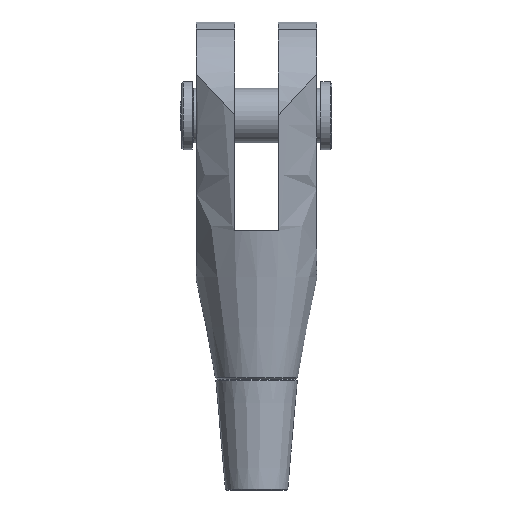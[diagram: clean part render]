
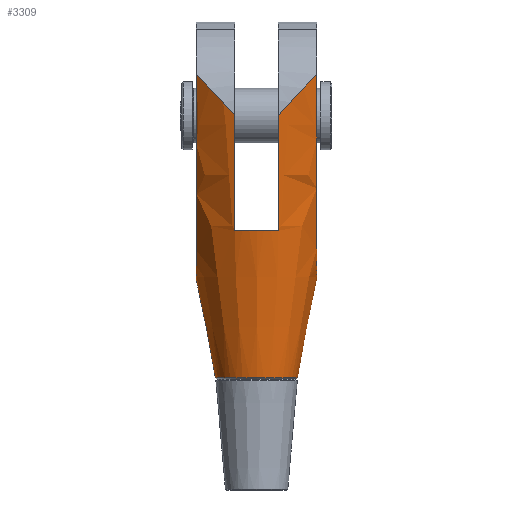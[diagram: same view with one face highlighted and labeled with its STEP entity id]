
A CAD part, front view. The second image highlights one B-rep face of the part: STEP entity #3309.
In plain terms, the highlighted conical face has half-angle 11 degrees and reference radius 49.937 mm.
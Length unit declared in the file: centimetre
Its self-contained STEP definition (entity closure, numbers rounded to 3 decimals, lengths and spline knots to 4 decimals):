
#885=B_SPLINE_CURVE_WITH_KNOTS('',3,(#4488,#4489,#4490,#4491,#4492,#4493,
#4494,#4495,#4496,#4497),.UNSPECIFIED.,.F.,.F.,(4,2,2,2,4),(18.9716,
19.758,21.3497,22.1456,22.8953),
 .UNSPECIFIED.);
#886=B_SPLINE_CURVE_WITH_KNOTS('',3,(#4509,#4510,#4511,#4512,#4513,#4514,
#4515,#4516,#4517,#4518),.UNSPECIFIED.,.F.,.F.,(4,2,2,2,4),(61.0899,
61.8397,62.6355,64.2273,65.0136),
 .UNSPECIFIED.);
#887=B_SPLINE_CURVE_WITH_KNOTS('',3,(#4524,#4525,#4526,#4527,#4528,#4529,
#4530,#4531,#4532,#4533),.UNSPECIFIED.,.F.,.F.,(4,2,2,2,4),(60.9643,
61.7506,63.3424,64.1383,64.888),
 .UNSPECIFIED.);
#888=B_SPLINE_CURVE_WITH_KNOTS('',3,(#4544,#4545,#4546,#4547,#4548,#4549,
#4550,#4551,#4552,#4553),.UNSPECIFIED.,.F.,.F.,(4,2,2,2,4),(19.0973,
19.847,20.6429,22.2346,23.021),
 .UNSPECIFIED.);
#931=(
BOUNDED_CURVE()
B_SPLINE_CURVE(2,(#4484,#4485,#4486),.UNSPECIFIED.,.F.,.F.)
B_SPLINE_CURVE_WITH_KNOTS((3,3),(1.4389,34.7655),
 .UNSPECIFIED.)
CURVE()
GEOMETRIC_REPRESENTATION_ITEM()
RATIONAL_B_SPLINE_CURVE((1.064,1.77,1.064))
REPRESENTATION_ITEM('')
);
#932=(
BOUNDED_CURVE()
B_SPLINE_CURVE(2,(#4499,#4500,#4501),.UNSPECIFIED.,.F.,.F.)
B_SPLINE_CURVE_WITH_KNOTS((3,3),(5.4872,14.0748),
 .UNSPECIFIED.)
CURVE()
GEOMETRIC_REPRESENTATION_ITEM()
RATIONAL_B_SPLINE_CURVE((1.013,1.017,1.))
REPRESENTATION_ITEM('')
);
#933=(
BOUNDED_CURVE()
B_SPLINE_CURVE(2,(#4505,#4506,#4507),.UNSPECIFIED.,.F.,.F.)
B_SPLINE_CURVE_WITH_KNOTS((3,3),(0.,8.5876),.UNSPECIFIED.)
CURVE()
GEOMETRIC_REPRESENTATION_ITEM()
RATIONAL_B_SPLINE_CURVE((1.,1.017,1.013))
REPRESENTATION_ITEM('')
);
#934=(
BOUNDED_CURVE()
B_SPLINE_CURVE(2,(#4520,#4521,#4522),.UNSPECIFIED.,.F.,.F.)
B_SPLINE_CURVE_WITH_KNOTS((3,3),(1.4389,34.7655),
 .UNSPECIFIED.)
CURVE()
GEOMETRIC_REPRESENTATION_ITEM()
RATIONAL_B_SPLINE_CURVE((1.064,1.77,1.064))
REPRESENTATION_ITEM('')
);
#935=(
BOUNDED_CURVE()
B_SPLINE_CURVE(2,(#4535,#4536,#4537),.UNSPECIFIED.,.F.,.F.)
B_SPLINE_CURVE_WITH_KNOTS((3,3),(5.4872,14.0748),
 .UNSPECIFIED.)
CURVE()
GEOMETRIC_REPRESENTATION_ITEM()
RATIONAL_B_SPLINE_CURVE((1.013,1.017,1.))
REPRESENTATION_ITEM('')
);
#936=(
BOUNDED_CURVE()
B_SPLINE_CURVE(2,(#4541,#4542,#4543),.UNSPECIFIED.,.F.,.F.)
B_SPLINE_CURVE_WITH_KNOTS((3,3),(0.,8.5876),.UNSPECIFIED.)
CURVE()
GEOMETRIC_REPRESENTATION_ITEM()
RATIONAL_B_SPLINE_CURVE((1.,1.017,1.013))
REPRESENTATION_ITEM('')
);
#944=FACE_BOUND('',#1176,.T.);
#988=FACE_OUTER_BOUND('',#1175,.T.);
#1175=EDGE_LOOP('',(#2209,#2210,#2211,#2212,#2213,#2214,#2215,#2216,#2217,
#2218,#2219,#2220));
#1176=EDGE_LOOP('',(#2221));
#1404=CIRCLE('',#3500,2.7191);
#1405=CIRCLE('',#3502,4.6049);
#1406=CIRCLE('',#3503,4.6049);
#1448=VERTEX_POINT('',#4479);
#1449=VERTEX_POINT('',#4482);
#1450=VERTEX_POINT('',#4483);
#1451=VERTEX_POINT('',#4487);
#1452=VERTEX_POINT('',#4498);
#1453=VERTEX_POINT('',#4502);
#1454=VERTEX_POINT('',#4504);
#1455=VERTEX_POINT('',#4508);
#1456=VERTEX_POINT('',#4519);
#1457=VERTEX_POINT('',#4523);
#1458=VERTEX_POINT('',#4534);
#1459=VERTEX_POINT('',#4538);
#1460=VERTEX_POINT('',#4540);
#1758=EDGE_CURVE('',#1448,#1448,#1404,.T.);
#1759=EDGE_CURVE('',#1449,#1450,#931,.T.);
#1760=EDGE_CURVE('',#1450,#1451,#885,.T.);
#1761=EDGE_CURVE('',#1451,#1452,#932,.T.);
#1762=EDGE_CURVE('',#1452,#1453,#1405,.T.);
#1763=EDGE_CURVE('',#1453,#1454,#933,.T.);
#1764=EDGE_CURVE('',#1454,#1455,#886,.T.);
#1765=EDGE_CURVE('',#1455,#1456,#934,.T.);
#1766=EDGE_CURVE('',#1456,#1457,#887,.T.);
#1767=EDGE_CURVE('',#1457,#1458,#935,.T.);
#1768=EDGE_CURVE('',#1458,#1459,#1406,.T.);
#1769=EDGE_CURVE('',#1459,#1460,#936,.T.);
#1770=EDGE_CURVE('',#1460,#1449,#888,.T.);
#2209=ORIENTED_EDGE('',*,*,#1759,.T.);
#2210=ORIENTED_EDGE('',*,*,#1760,.T.);
#2211=ORIENTED_EDGE('',*,*,#1761,.T.);
#2212=ORIENTED_EDGE('',*,*,#1762,.T.);
#2213=ORIENTED_EDGE('',*,*,#1763,.T.);
#2214=ORIENTED_EDGE('',*,*,#1764,.T.);
#2215=ORIENTED_EDGE('',*,*,#1765,.T.);
#2216=ORIENTED_EDGE('',*,*,#1766,.T.);
#2217=ORIENTED_EDGE('',*,*,#1767,.T.);
#2218=ORIENTED_EDGE('',*,*,#1768,.T.);
#2219=ORIENTED_EDGE('',*,*,#1769,.T.);
#2220=ORIENTED_EDGE('',*,*,#1770,.T.);
#2221=ORIENTED_EDGE('',*,*,#1758,.F.);
#3108=CONICAL_SURFACE('',#3501,4.9937,11.);
#3309=ADVANCED_FACE('',(#988,#944),#3108,.T.);
#3500=AXIS2_PLACEMENT_3D('',#4480,#3713,#3714);
#3501=AXIS2_PLACEMENT_3D('',#4481,#3715,#3716);
#3502=AXIS2_PLACEMENT_3D('',#4503,#3717,#3718);
#3503=AXIS2_PLACEMENT_3D('',#4539,#3719,#3720);
#3713=DIRECTION('center_axis',(0.,0.,-1.));
#3714=DIRECTION('ref_axis',(0.,1.,0.));
#3715=DIRECTION('center_axis',(0.,0.,
1.));
#3716=DIRECTION('ref_axis',(0.,-1.,0.));
#3717=DIRECTION('center_axis',(0.,0.,
-1.));
#3718=DIRECTION('ref_axis',(0.,-1.,0.));
#3719=DIRECTION('center_axis',(0.,0.,
-1.));
#3720=DIRECTION('ref_axis',(0.,-1.,0.));
#4479=CARTESIAN_POINT('',(0.,-2.7191,-17.3018));
#4480=CARTESIAN_POINT('Origin',(0.,0.,-17.3018));
#4481=CARTESIAN_POINT('Origin',(0.,0.,
-5.6));
#4482=CARTESIAN_POINT('',(-3.975,-5.2861,2.7351));
#4483=CARTESIAN_POINT('',(-3.975,5.2861,2.7351));
#4484=CARTESIAN_POINT('Ctrl Pts',(-3.975,-5.2861,2.7351));
#4485=CARTESIAN_POINT('Ctrl Pts',(-3.975,0.,
-18.9999));
#4486=CARTESIAN_POINT('Ctrl Pts',(-3.975,5.2861,2.7351));
#4487=CARTESIAN_POINT('',(-1.425,5.9129,0.));
#4488=CARTESIAN_POINT('Ctrl Pts',(-3.975,5.2861,2.7351));
#4489=CARTESIAN_POINT('Ctrl Pts',(-3.7999,5.3737,2.5539));
#4490=CARTESIAN_POINT('Ctrl Pts',(-3.6217,5.4522,2.3694));
#4491=CARTESIAN_POINT('Ctrl Pts',(-3.0807,5.6607,1.807));
#4492=CARTESIAN_POINT('Ctrl Pts',(-2.7151,5.7609,1.4248));
#4493=CARTESIAN_POINT('Ctrl Pts',(-2.1926,5.8559,0.8656));
#4494=CARTESIAN_POINT('Ctrl Pts',(-2.0236,5.8783,0.6825));
#4495=CARTESIAN_POINT('Ctrl Pts',(-1.7091,5.9064,0.3327));
#4496=CARTESIAN_POINT('Ctrl Pts',(-1.5626,5.9129,0.1658));
#4497=CARTESIAN_POINT('Ctrl Pts',(-1.425,5.9129,0.));
#4498=CARTESIAN_POINT('',(-1.425,4.3789,-7.6));
#4499=CARTESIAN_POINT('Ctrl Pts',(-1.425,5.9129,0.));
#4500=CARTESIAN_POINT('Ctrl Pts',(-1.425,5.0399,-4.3664));
#4501=CARTESIAN_POINT('Ctrl Pts',(-1.425,4.3789,-7.6));
#4502=CARTESIAN_POINT('',(1.425,4.3789,-7.6));
#4503=CARTESIAN_POINT('Origin',(0.,0.,
-7.6));
#4504=CARTESIAN_POINT('',(1.425,5.9129,0.));
#4505=CARTESIAN_POINT('Ctrl Pts',(1.425,4.3789,-7.6));
#4506=CARTESIAN_POINT('Ctrl Pts',(1.425,5.0399,-4.3664));
#4507=CARTESIAN_POINT('Ctrl Pts',(1.425,5.9129,0.));
#4508=CARTESIAN_POINT('',(3.975,5.2861,2.7351));
#4509=CARTESIAN_POINT('Ctrl Pts',(1.425,5.9129,0.));
#4510=CARTESIAN_POINT('Ctrl Pts',(1.5626,5.9129,0.1658));
#4511=CARTESIAN_POINT('Ctrl Pts',(1.7091,5.9064,0.3327));
#4512=CARTESIAN_POINT('Ctrl Pts',(2.0236,5.8783,0.6825));
#4513=CARTESIAN_POINT('Ctrl Pts',(2.1926,5.8559,0.8656));
#4514=CARTESIAN_POINT('Ctrl Pts',(2.7151,5.7609,1.4248));
#4515=CARTESIAN_POINT('Ctrl Pts',(3.0807,5.6607,1.807));
#4516=CARTESIAN_POINT('Ctrl Pts',(3.6217,5.4522,2.3694));
#4517=CARTESIAN_POINT('Ctrl Pts',(3.7999,5.3737,2.5539));
#4518=CARTESIAN_POINT('Ctrl Pts',(3.975,5.2861,2.7351));
#4519=CARTESIAN_POINT('',(3.975,-5.2861,2.7351));
#4520=CARTESIAN_POINT('Ctrl Pts',(3.975,5.2861,2.7351));
#4521=CARTESIAN_POINT('Ctrl Pts',(3.975,0.,
-18.9999));
#4522=CARTESIAN_POINT('Ctrl Pts',(3.975,-5.2861,2.7351));
#4523=CARTESIAN_POINT('',(1.425,-5.9129,0.));
#4524=CARTESIAN_POINT('Ctrl Pts',(3.975,-5.2861,2.7351));
#4525=CARTESIAN_POINT('Ctrl Pts',(3.7999,-5.3737,2.5539));
#4526=CARTESIAN_POINT('Ctrl Pts',(3.6217,-5.4522,2.3694));
#4527=CARTESIAN_POINT('Ctrl Pts',(3.0807,-5.6607,1.807));
#4528=CARTESIAN_POINT('Ctrl Pts',(2.7151,-5.7609,1.4248));
#4529=CARTESIAN_POINT('Ctrl Pts',(2.1926,-5.8559,0.8656));
#4530=CARTESIAN_POINT('Ctrl Pts',(2.0236,-5.8783,0.6825));
#4531=CARTESIAN_POINT('Ctrl Pts',(1.7091,-5.9064,0.3327));
#4532=CARTESIAN_POINT('Ctrl Pts',(1.5626,-5.9129,0.1658));
#4533=CARTESIAN_POINT('Ctrl Pts',(1.425,-5.9129,0.));
#4534=CARTESIAN_POINT('',(1.425,-4.3789,-7.6));
#4535=CARTESIAN_POINT('Ctrl Pts',(1.425,-5.9129,0.));
#4536=CARTESIAN_POINT('Ctrl Pts',(1.425,-5.0399,-4.3664));
#4537=CARTESIAN_POINT('Ctrl Pts',(1.425,-4.3789,-7.6));
#4538=CARTESIAN_POINT('',(-1.425,-4.3789,-7.6));
#4539=CARTESIAN_POINT('Origin',(0.,0.,
-7.6));
#4540=CARTESIAN_POINT('',(-1.425,-5.9129,0.));
#4541=CARTESIAN_POINT('Ctrl Pts',(-1.425,-4.3789,-7.6));
#4542=CARTESIAN_POINT('Ctrl Pts',(-1.425,-5.0399,-4.3664));
#4543=CARTESIAN_POINT('Ctrl Pts',(-1.425,-5.9129,0.));
#4544=CARTESIAN_POINT('Ctrl Pts',(-1.425,-5.9129,0.));
#4545=CARTESIAN_POINT('Ctrl Pts',(-1.5626,-5.9129,0.1658));
#4546=CARTESIAN_POINT('Ctrl Pts',(-1.7091,-5.9064,0.3327));
#4547=CARTESIAN_POINT('Ctrl Pts',(-2.0236,-5.8783,0.6825));
#4548=CARTESIAN_POINT('Ctrl Pts',(-2.1926,-5.8559,0.8656));
#4549=CARTESIAN_POINT('Ctrl Pts',(-2.7151,-5.7609,1.4248));
#4550=CARTESIAN_POINT('Ctrl Pts',(-3.0807,-5.6607,1.807));
#4551=CARTESIAN_POINT('Ctrl Pts',(-3.6217,-5.4522,2.3694));
#4552=CARTESIAN_POINT('Ctrl Pts',(-3.7999,-5.3737,2.5539));
#4553=CARTESIAN_POINT('Ctrl Pts',(-3.975,-5.2861,2.7351));
